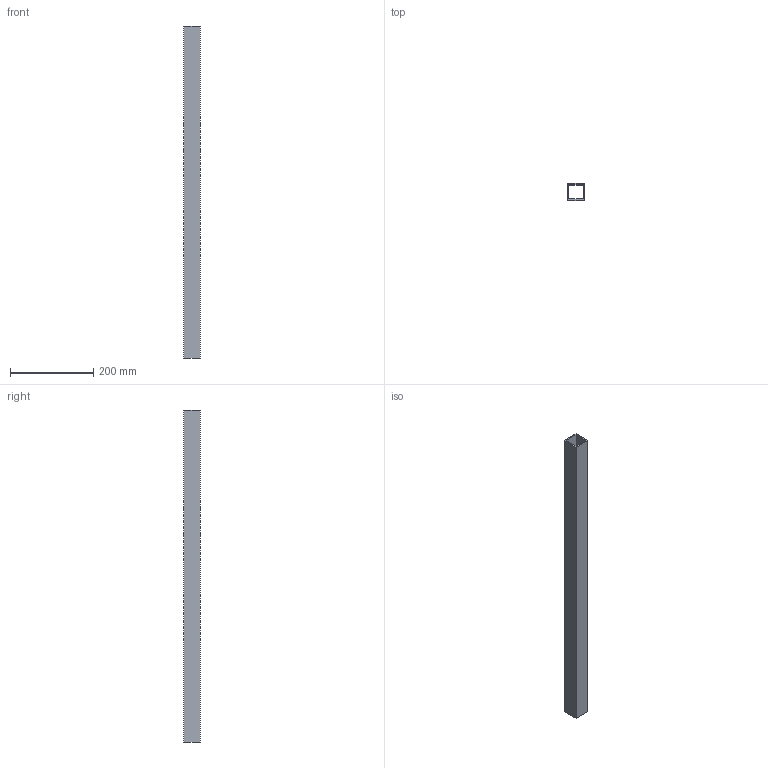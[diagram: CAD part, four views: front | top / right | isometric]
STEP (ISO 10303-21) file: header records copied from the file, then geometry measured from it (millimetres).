
FILE_DESCRIPTION(('Open CASCADE Model'),'2;1');
FILE_NAME('Open CASCADE Shape Model','2026-10-19T10:09:27',('Author'),( 'Open CASCADE'),'Open CASCADE STEP processor 8.0','Open CASCADE 8.0' ,'Unknown');
FILE_SCHEMA(('AUTOMOTIVE_DESIGN { 1 0 10303 214 1 1 1 1 }'));
Length unit declared in the file: millimetre
Products named in the file (1): AC_SHS40x40x3_L800000 176
Bounding box: 40 x 40 x 800 mm (x, y, z)
Volume: 355200 mm3; surface area: 237688 mm2
Topology: 1 solids, 1 shells, 10 faces, 24 edges, 16 vertices
Faces by surface type: plane 10
Entity records: 614 total; most frequent: CARTESIAN_POINT 99, DIRECTION 94, LINE 72, VECTOR 72, ORIENTED_EDGE 48, PCURVE 48, DEFINITIONAL_REPRESENTATION 48, EDGE_CURVE 24
